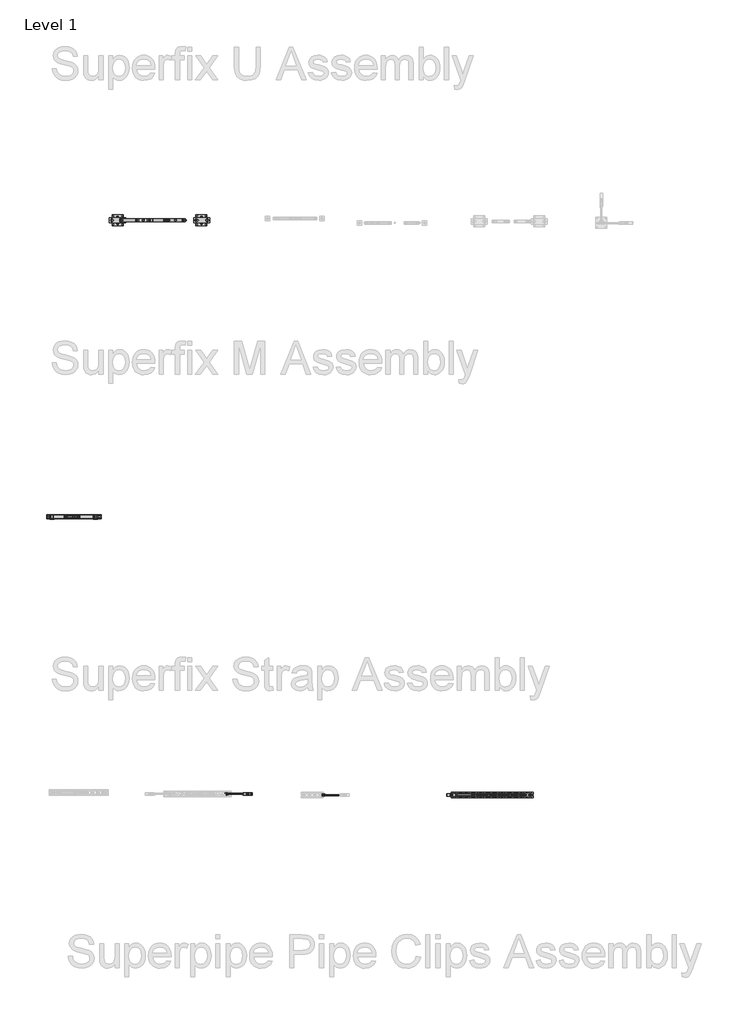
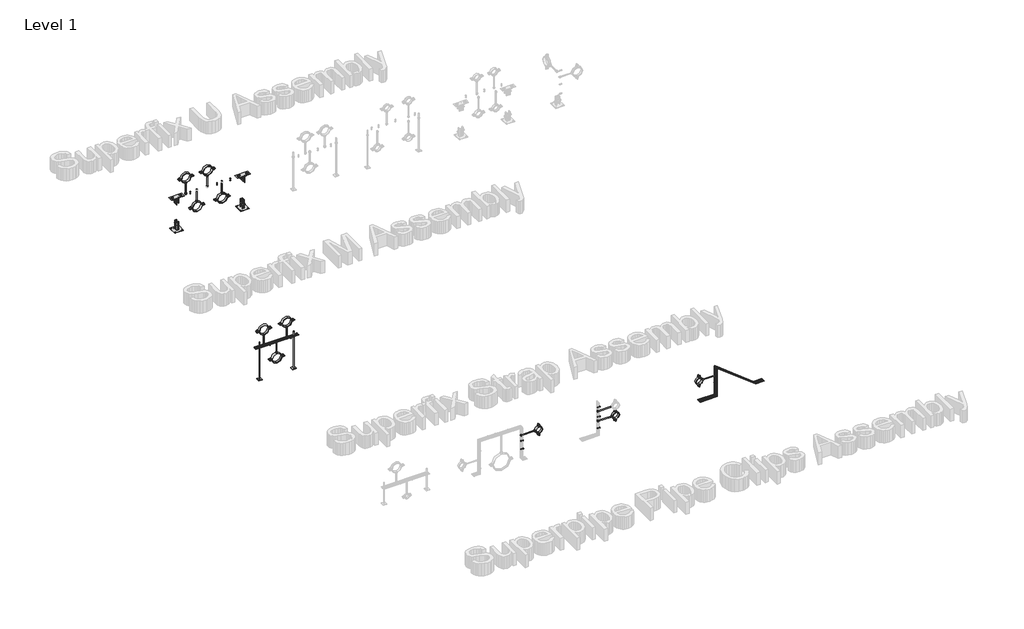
# One storey, part 6 of 32: 142 valves, 2 unitary equipment elements.
"""IFC4 building model written with IfcOpenShell, lengths in millimetres."""

from ifc_helpers import new_model, si_unit, origin, place, context, project, spatial, transform, mapped, element, save
from components import unitary_equipment_e487e5fd, valve_f36d75ac, valve_03d34d46, valve_3ecbcef6, valve_9efe13c8, valve_b67d411c, valve_76fbe92c, valve_fad8a5b8, valve_cdfc1e77, valve_466bc10e, hexagon_nut_galvanized_extra_m10_fcef541f, valve_42e91783, hexagon_nut_galvanized_extra_m8_53389388, superfix_hexagon_screw_galvanized_e39b877e, superfix_hexagon_screw_galvanized_3d7df342, superfix_hexagon_screw_galvanized_39733bb5, superfix_m_extra_beb970f8, superfix_strap_f0c71177, superfix_strap_43a990a7, superfix_strap_2dfa1f6c, superfix_strap_981cfdac, superfix_u_bracket_v_superfix_u_bracket_v_d2fbcba1, superfix_u_bracket_v_superfix_u_bracket_v_062b6a46

model = new_model("IFC4")

# Units and contexts
model_context = context("Model", 3, world=origin())
ifc_project = project(units=[si_unit("LENGTHUNIT", "METRE", prefix="MILLI")], contexts=[model_context])

# Site, building, storey
site = spatial("IfcSite", under=ifc_project)
building = spatial("IfcBuilding", under=site)
storey = spatial("IfcBuildingStorey", under=building, Name="Level 1", Elevation=0.0)

# Unitary equipment
placement = place(None, origin())
unitary_equipment_shape = unitary_equipment_e487e5fd(model_context)
element("IfcUnitaryEquipment", 1, ObjectType="1_INS_MQA-R : MQA-R", at=placement, inside=storey, context=model_context, shape_type="MappedRepresentation", body=[
    mapped(unitary_equipment_shape, transform((-22562.5069151, 23341.6781884, 0.0), x_axis=(0.0, 1.0, 0.0), y_axis=(-1.0, 0.0, 0.0), z_axis=(0.0, 0.0, 1.0))),
])
element("IfcUnitaryEquipment", 2, ObjectType="1_INS_MQA-R : MQA-R", at=placement, inside=storey, context=model_context, shape_type="MappedRepresentation", body=[
    mapped(unitary_equipment_shape, transform((-22162.5069151, 23341.6781884, 0.0), x_axis=(0.0, 1.0, 0.0), y_axis=(-1.0, 0.0, 0.0), z_axis=(0.0, 0.0, 1.0))),
])

# Valves
valve_shape = valve_f36d75ac(model_context)
element("IfcValve", 3, ObjectType="Superfix Threaded Rod (used for clamps) : Threaded Rod - 1000 mm (used for clamps)", at=placement, inside=storey, context=model_context, shape_type="MappedRepresentation", body=[
    mapped(valve_shape, transform((-22562.5069151, 23341.6781884, 0.0), x_axis=(0.0, 0.0, 1.0), y_axis=(1.0, 0.0, 0.0), z_axis=(0.0, 1.0, 0.0))),
])
element("IfcValve", 4, ObjectType="Superfix Threaded Rod (used for clamps) : Threaded Rod - 1000 mm (used for clamps)", at=placement, inside=storey, context=model_context, shape_type="MappedRepresentation", body=[
    mapped(valve_shape, transform((-22162.5069151, 23341.6781884, 0.0), x_axis=(0.0, 0.0, 1.0), y_axis=(1.0, 0.0, 0.0), z_axis=(0.0, 1.0, 0.0))),
])
valve_2_shape = valve_03d34d46(model_context)
element("IfcValve", 5, ObjectType="Superfix DG2 Clamp : Superfix DG2 Clamp", at=placement, inside=storey, context=model_context, shape_type="MappedRepresentation", body=[
    mapped(valve_2_shape, transform((-21854.5211936, 26062.3269188, 402.0), x_axis=(0.0, 1.0, 0.0), y_axis=(-1.0, 0.0, 0.0), z_axis=(0.0, 0.0, 1.0))),
])
element("IfcValve", 6, ObjectType="Superfix DG2 Clamp : Superfix DG2 Clamp", at=placement, inside=storey, context=model_context, shape_type="MappedRepresentation", body=[
    mapped(valve_2_shape, transform((-21600.1711936, 26062.3269188, 402.0), x_axis=(0.0, 1.0, 0.0), y_axis=(-1.0, 0.0, 0.0), z_axis=(0.0, 0.0, 1.0))),
])
element("IfcValve", 7, ObjectType="Superfix DG2 Clamp : Superfix DG2 Clamp", at=placement, inside=storey, context=model_context, shape_type="MappedRepresentation", body=[
    mapped(valve_2_shape, transform((-21429.3211936, 26062.3269188, 402.0), x_axis=(0.0, 1.0, 0.0), y_axis=(1.0, 0.0, 0.0), z_axis=(0.0, 0.0, -1.0))),
])
element("IfcValve", 8, ObjectType="Superfix DG2 Clamp : Superfix DG2 Clamp", at=placement, inside=storey, context=model_context, shape_type="MappedRepresentation", body=[
    mapped(valve_2_shape, transform((-21725.0211936, 26062.3269188, 402.0), x_axis=(0.0, 1.0, 0.0), y_axis=(1.0, 0.0, 0.0), z_axis=(0.0, 0.0, -1.0))),
])
element("IfcValve", 9, ObjectType="Superfix DG2 Clamp : Superfix DG2 Clamp", at=placement, inside=storey, context=model_context, shape_type="MappedRepresentation", body=[
    mapped(valve_2_shape, transform((-22362.8598781, 23341.6781884, 403.0), x_axis=(0.0, -1.0, 0.0), y_axis=(-1.0, 0.0, 0.0), z_axis=(0.0, 0.0, -1.0))),
])
element("IfcValve", 10, ObjectType="Superfix DG2 Clamp : Superfix DG2 Clamp", at=placement, inside=storey, context=model_context, shape_type="MappedRepresentation", body=[
    mapped(valve_2_shape, transform((-22245.1711936, 23341.6781884, 403.0), x_axis=(0.0, -1.0, 0.0), y_axis=(1.0, 0.0, 0.0), z_axis=(0.0, 0.0, 1.0))),
])
element("IfcValve", 11, ObjectType="Superfix DG2 Clamp : Superfix DG2 Clamp", at=placement, inside=storey, context=model_context, shape_type="MappedRepresentation", body=[
    mapped(valve_2_shape, transform((-22513.3158209, 23341.6781884, 403.0), x_axis=(0.0, -1.0, 0.0), y_axis=(1.0, 0.0, 0.0), z_axis=(0.0, 0.0, 1.0))),
])
valve_3_shape = valve_3ecbcef6(model_context)
element("IfcValve", 12, ObjectType="Superfix Threaded Rod (used for clamps) : Threaded Rod - 1000 mm (used for clamps)", at=placement, inside=storey, context=model_context, shape_type="MappedRepresentation", body=[
    mapped(valve_3_shape, transform((-21854.5211936, 26062.3269188, 402.0), x_axis=(0.0, 0.0, 1.0), y_axis=(1.0, 0.0, 0.0), z_axis=(0.0, 1.0, 0.0))),
])
element("IfcValve", 13, ObjectType="Superfix Threaded Rod (used for clamps) : Threaded Rod - 1000 mm (used for clamps)", at=placement, inside=storey, context=model_context, shape_type="MappedRepresentation", body=[
    mapped(valve_3_shape, transform((-21600.1711936, 26062.3269188, 402.0), x_axis=(0.0, 0.0, 1.0), y_axis=(1.0, 0.0, 0.0), z_axis=(0.0, 1.0, 0.0))),
])
element("IfcValve", 14, ObjectType="Superfix Threaded Rod (used for clamps) : Threaded Rod - 1000 mm (used for clamps)", at=placement, inside=storey, context=model_context, shape_type="MappedRepresentation", body=[
    mapped(valve_3_shape, transform((-21429.3211936, 26062.3269188, 402.0), x_axis=(0.0, 0.0, -1.0), y_axis=(-1.0, 0.0, 0.0), z_axis=(0.0, 1.0, 0.0))),
])
element("IfcValve", 15, ObjectType="Superfix Threaded Rod (used for clamps) : Threaded Rod - 1000 mm (used for clamps)", at=placement, inside=storey, context=model_context, shape_type="MappedRepresentation", body=[
    mapped(valve_3_shape, transform((-21725.0211936, 26062.3269188, 402.0), x_axis=(0.0, 0.0, -1.0), y_axis=(-1.0, 0.0, 0.0), z_axis=(0.0, 1.0, 0.0))),
])
element("IfcValve", 16, ObjectType="Superfix Threaded Rod (used for clamps) : Threaded Rod - 1000 mm (used for clamps)", at=placement, inside=storey, context=model_context, shape_type="MappedRepresentation", body=[
    mapped(valve_3_shape, transform((-22362.8598781, 23341.6781884, 403.0), x_axis=(0.0, 0.0, -1.0), y_axis=(1.0, 0.0, 0.0), z_axis=(0.0, -1.0, 0.0))),
])
element("IfcValve", 17, ObjectType="Superfix Threaded Rod (used for clamps) : Threaded Rod - 1000 mm (used for clamps)", at=placement, inside=storey, context=model_context, shape_type="MappedRepresentation", body=[
    mapped(valve_3_shape, transform((-22245.1711936, 23341.6781884, 403.0), x_axis=(0.0, 0.0, 1.0), y_axis=(-1.0, 0.0, 0.0), z_axis=(0.0, -1.0, 0.0))),
])
element("IfcValve", 18, ObjectType="Superfix Threaded Rod (used for clamps) : Threaded Rod - 1000 mm (used for clamps)", at=placement, inside=storey, context=model_context, shape_type="MappedRepresentation", body=[
    mapped(valve_3_shape, transform((-22513.3158209, 23341.6781884, 403.0), x_axis=(0.0, 0.0, 1.0), y_axis=(-1.0, 0.0, 0.0), z_axis=(0.0, -1.0, 0.0))),
])
valve_4_shape = valve_9efe13c8(model_context)
element("IfcValve", 19, ObjectType="Superfix DG2 Clamp : Superfix DG2 Clamp", at=placement, inside=storey, context=model_context, shape_type="MappedRepresentation", body=[
    mapped(valve_4_shape, transform((-20075.2249053, 20789.480189, 167.25), x_axis=(0.0, 1.0, 0.0), y_axis=(0.0, 0.0, 1.0), z_axis=(1.0, 0.0, 0.0))),
])
element("IfcValve", 20, ObjectType="Superfix DG2 Clamp : Superfix DG2 Clamp", at=placement, inside=storey, context=model_context, shape_type="MappedRepresentation", body=[
    mapped(valve_4_shape, transform((-20966.5211936, 20799.485539, 295.5), x_axis=(0.0, 1.0, 0.0), y_axis=(0.0, 0.0, 1.0), z_axis=(1.0, 0.0, 0.0))),
])
element("IfcValve", 21, ObjectType="Superfix DG2 Clamp : Superfix DG2 Clamp", at=placement, inside=storey, context=model_context, shape_type="MappedRepresentation", body=[
    mapped(valve_4_shape, transform((-18700.0503002, 20789.480189, 250.0), x_axis=(0.0, -1.0, 0.0), y_axis=(0.0, 0.0, 1.0), z_axis=(-1.0, 0.0, 0.0))),
])
valve_5_shape = valve_b67d411c(model_context)
element("IfcValve", 22, ObjectType="Superfix Threaded Rod (used for clamps) : Threaded Rod - 1000 mm (used for clamps)", at=placement, inside=storey, context=model_context, shape_type="MappedRepresentation", body=[
    mapped(valve_5_shape, transform((-20075.2249053, 20789.480189, 287.5), x_axis=(1.0, 0.0, 0.0), y_axis=(0.0, 0.0, -1.0), z_axis=(0.0, 1.0, 0.0))),
])
element("IfcValve", 23, ObjectType="Superfix Threaded Rod (used for clamps) : Threaded Rod - 1000 mm (used for clamps)", at=placement, inside=storey, context=model_context, shape_type="MappedRepresentation", body=[
    mapped(valve_5_shape, transform((-20075.2249053, 20789.480189, 167.25), x_axis=(1.0, 0.0, 0.0), y_axis=(0.0, 0.0, -1.0), z_axis=(0.0, 1.0, 0.0))),
])
element("IfcValve", 24, ObjectType="Superfix Threaded Rod (used for clamps) : Threaded Rod - 1000 mm (used for clamps)", at=placement, inside=storey, context=model_context, shape_type="MappedRepresentation", body=[
    mapped(valve_5_shape, transform((-20966.5211936, 20799.485539, 295.5), x_axis=(1.0, 0.0, 0.0), y_axis=(0.0, 0.0, -1.0), z_axis=(0.0, 1.0, 0.0))),
])
element("IfcValve", 25, ObjectType="Superfix Threaded Rod (used for clamps) : Threaded Rod - 1000 mm (used for clamps)", at=placement, inside=storey, context=model_context, shape_type="MappedRepresentation", body=[
    mapped(valve_5_shape, transform((-18700.0503002, 20789.480189, 250.0), x_axis=(-1.0, 0.0, 0.0), y_axis=(0.0, 0.0, -1.0), z_axis=(0.0, -1.0, 0.0))),
])
valve_6_shape = valve_76fbe92c(model_context)
element("IfcValve", 26, ObjectType="Superfix Flat Washer : Superfix Flat Washer M4x10x1", at=placement, inside=storey, context=model_context, shape_type="MappedRepresentation", body=[
    mapped(valve_6_shape, transform((-21487.5507377, 26062.3269188, 404.008864), x_axis=(1.0, 0.0, 0.0), y_axis=(0.0, 1.0, 0.0), z_axis=(0.0, 0.0, 1.0))),
])
element("IfcValve", 27, ObjectType="Superfix Flat Washer : Superfix Flat Washer M4x10x1", at=placement, inside=storey, context=model_context, shape_type="MappedRepresentation", body=[
    mapped(valve_6_shape, transform((-21333.2746296, 26062.3269188, 404.008864), x_axis=(1.0, 0.0, 0.0), y_axis=(0.0, 1.0, 0.0), z_axis=(0.0, 0.0, 1.0))),
])
element("IfcValve", 28, ObjectType="Superfix Flat Washer : Superfix Flat Washer M4x10x1", at=placement, inside=storey, context=model_context, shape_type="MappedRepresentation", body=[
    mapped(valve_6_shape, transform((-21800.1711936, 26062.3269188, 404.008864), x_axis=(1.0, 0.0, 0.0), y_axis=(0.0, 1.0, 0.0), z_axis=(0.0, 0.0, 1.0))),
])
element("IfcValve", 29, ObjectType="Superfix Flat Washer : Superfix Flat Washer M4x10x1", at=placement, inside=storey, context=model_context, shape_type="MappedRepresentation", body=[
    mapped(valve_6_shape, transform((-22195.4583134, 23341.6781884, 405.008864), x_axis=(-1.0, 0.0, 0.0), y_axis=(0.0, -1.0, 0.0), z_axis=(0.0, 0.0, 1.0))),
])
element("IfcValve", 30, ObjectType="Superfix Flat Washer : Superfix Flat Washer M4x10x1", at=placement, inside=storey, context=model_context, shape_type="MappedRepresentation", body=[
    mapped(valve_6_shape, transform((-22439.9674083, 23341.6781884, 405.008864), x_axis=(-1.0, 0.0, 0.0), y_axis=(0.0, -1.0, 0.0), z_axis=(0.0, 0.0, 1.0))),
])
element("IfcValve", 31, ObjectType="Superfix Flat Washer : Superfix Flat Washer M4x10x1", at=placement, inside=storey, context=model_context, shape_type="MappedRepresentation", body=[
    mapped(valve_6_shape, transform((-18698.0414362, 20789.480189, 165.5972539), x_axis=(0.0, 0.0, -1.0), y_axis=(0.0, 1.0, 0.0), z_axis=(1.0, 0.0, 0.0))),
])
element("IfcValve", 32, ObjectType="Superfix Flat Washer : Superfix Flat Washer M4x10x1", at=placement, inside=storey, context=model_context, shape_type="MappedRepresentation", body=[
    mapped(valve_6_shape, transform((-20077.2337693, 20789.480189, 335.500726), x_axis=(0.0, 0.0, -1.0), y_axis=(0.0, -1.0, 0.0), z_axis=(-1.0, 0.0, 0.0))),
])
element("IfcValve", 33, ObjectType="Superfix Flat Washer : Superfix Flat Washer M4x10x1", at=placement, inside=storey, context=model_context, shape_type="MappedRepresentation", body=[
    mapped(valve_6_shape, transform((-20077.2337693, 20793.630189, 75.0), x_axis=(0.0, 0.0, -1.0), y_axis=(0.0, -1.0, 0.0), z_axis=(-1.0, 0.0, 0.0))),
])
element("IfcValve", 34, ObjectType="Superfix Flat Washer : Superfix Flat Washer M4x10x1", at=placement, inside=storey, context=model_context, shape_type="MappedRepresentation", body=[
    mapped(valve_6_shape, transform((-20077.2337693, 20789.480189, 214.3954294), x_axis=(0.0, 0.0, -1.0), y_axis=(0.0, -1.0, 0.0), z_axis=(-1.0, 0.0, 0.0))),
])
element("IfcValve", 35, ObjectType="Superfix Flat Washer : Superfix Flat Washer M4x10x1", at=placement, inside=storey, context=model_context, shape_type="MappedRepresentation", body=[
    mapped(valve_6_shape, transform((-20968.5300576, 20796.485539, 125.5301694), x_axis=(0.0, 0.0, -1.0), y_axis=(0.0, -1.0, 0.0), z_axis=(-1.0, 0.0, 0.0))),
])
element("IfcValve", 36, ObjectType="Superfix Flat Washer : Superfix Flat Washer M4x10x1", at=placement, inside=storey, context=model_context, shape_type="MappedRepresentation", body=[
    mapped(valve_6_shape, transform((-20968.5300576, 20799.485539, 225.5301694), x_axis=(0.0, 0.0, -1.0), y_axis=(0.0, -1.0, 0.0), z_axis=(-1.0, 0.0, 0.0))),
])
valve_7_shape = valve_fad8a5b8(model_context)
element("IfcValve", 37, ObjectType="Superfix Flat Washer : Superfix Flat Washer M8x15x1.5", at=placement, inside=storey, context=model_context, shape_type="MappedRepresentation", body=[
    mapped(valve_7_shape, transform((-21190.6640093, 26032.2269188, 65.0), x_axis=(-1.0, 0.0, 0.0), y_axis=(0.0, 0.0, 1.0), z_axis=(0.0, 1.0, 0.0))),
])
element("IfcValve", 38, ObjectType="Superfix Flat Washer : Superfix Flat Washer M8x15x1.5", at=placement, inside=storey, context=model_context, shape_type="MappedRepresentation", body=[
    mapped(valve_7_shape, transform((-21190.6640093, 26032.2269188, 353.4852002), x_axis=(-1.0, 0.0, 0.0), y_axis=(0.0, 0.0, 1.0), z_axis=(0.0, 1.0, 0.0))),
])
element("IfcValve", 39, ObjectType="Superfix Flat Washer : Superfix Flat Washer M8x15x1.5", at=placement, inside=storey, context=model_context, shape_type="MappedRepresentation", body=[
    mapped(valve_7_shape, transform((-21960.0513166, 26032.2269188, 353.4852002), x_axis=(-1.0, 0.0, 0.0), y_axis=(0.0, 0.0, 1.0), z_axis=(0.0, 1.0, 0.0))),
])
element("IfcValve", 40, ObjectType="Superfix Flat Washer : Superfix Flat Washer M8x15x1.5", at=placement, inside=storey, context=model_context, shape_type="MappedRepresentation", body=[
    mapped(valve_7_shape, transform((-21960.0513166, 26032.2269188, 65.0), x_axis=(-1.0, 0.0, 0.0), y_axis=(0.0, 0.0, 1.0), z_axis=(0.0, 1.0, 0.0))),
])
element("IfcValve", 41, ObjectType="Superfix Flat Washer : Superfix Flat Washer M8x15x1.5", at=placement, inside=storey, context=model_context, shape_type="MappedRepresentation", body=[
    mapped(valve_7_shape, transform((-21976.8606693, 26062.3269188, 375.0), x_axis=(0.0, 1.0, 0.0), y_axis=(0.0, 0.0, 1.0), z_axis=(1.0, 0.0, 0.0))),
])
element("IfcValve", 42, ObjectType="Superfix Flat Washer : Superfix Flat Washer M8x15x1.5", at=placement, inside=storey, context=model_context, shape_type="MappedRepresentation", body=[
    mapped(valve_7_shape, transform((-21175.2606693, 26062.3269188, 375.0), x_axis=(0.0, 1.0, 0.0), y_axis=(0.0, 0.0, 1.0), z_axis=(1.0, 0.0, 0.0))),
])
element("IfcValve", 43, ObjectType="Superfix Flat Washer : Superfix Flat Washer M8x15x1.5", at=placement, inside=storey, context=model_context, shape_type="MappedRepresentation", body=[
    mapped(valve_7_shape, transform((-21976.8606693, 26062.3269188, 25.0), x_axis=(0.0, 1.0, 0.0), y_axis=(0.0, 0.0, 1.0), z_axis=(1.0, 0.0, 0.0))),
])
element("IfcValve", 44, ObjectType="Superfix Flat Washer : Superfix Flat Washer M8x15x1.5", at=placement, inside=storey, context=model_context, shape_type="MappedRepresentation", body=[
    mapped(valve_7_shape, transform((-21175.2606693, 26062.3269188, 25.0), x_axis=(0.0, 1.0, 0.0), y_axis=(0.0, 0.0, 1.0), z_axis=(1.0, 0.0, 0.0))),
])
element("IfcValve", 45, ObjectType="Superfix Flat Washer : Superfix Flat Washer M8x15x1.5", at=placement, inside=storey, context=model_context, shape_type="MappedRepresentation", body=[
    mapped(valve_7_shape, transform((-22005.2606693, 26062.3269188, 398.4), x_axis=(0.0, 1.0, 0.0), y_axis=(-1.0, 0.0, 0.0), z_axis=(0.0, 0.0, 1.0))),
])
element("IfcValve", 46, ObjectType="Superfix Flat Washer : Superfix Flat Washer M8x15x1.5", at=placement, inside=storey, context=model_context, shape_type="MappedRepresentation", body=[
    mapped(valve_7_shape, transform((-21925.2606693, 26062.3269188, 398.4), x_axis=(0.0, 1.0, 0.0), y_axis=(-1.0, 0.0, 0.0), z_axis=(0.0, 0.0, 1.0))),
])
element("IfcValve", 47, ObjectType="Superfix Flat Washer : Superfix Flat Washer M8x15x1.5", at=placement, inside=storey, context=model_context, shape_type="MappedRepresentation", body=[
    mapped(valve_7_shape, transform((-21225.2606693, 26062.3269188, 398.4), x_axis=(0.0, 1.0, 0.0), y_axis=(-1.0, 0.0, 0.0), z_axis=(0.0, 0.0, 1.0))),
])
element("IfcValve", 48, ObjectType="Superfix Flat Washer : Superfix Flat Washer M8x15x1.5", at=placement, inside=storey, context=model_context, shape_type="MappedRepresentation", body=[
    mapped(valve_7_shape, transform((-21145.2606693, 26062.3269188, 398.4), x_axis=(0.0, 1.0, 0.0), y_axis=(-1.0, 0.0, 0.0), z_axis=(0.0, 0.0, 1.0))),
])
element("IfcValve", 49, ObjectType="Superfix Flat Washer : Superfix Flat Washer M8x15x1.5", at=placement, inside=storey, context=model_context, shape_type="MappedRepresentation", body=[
    mapped(valve_7_shape, transform((-22162.5069151, 23341.6781884, 403.0), x_axis=(0.0, 1.0, 0.0), y_axis=(-1.0, 0.0, 0.0), z_axis=(0.0, 0.0, 1.0))),
])
element("IfcValve", 50, ObjectType="Superfix Flat Washer : Superfix Flat Washer M8x15x1.5", at=placement, inside=storey, context=model_context, shape_type="MappedRepresentation", body=[
    mapped(valve_7_shape, transform((-22162.5069151, 23341.6781884, 398.4), x_axis=(0.0, 1.0, 0.0), y_axis=(-1.0, 0.0, 0.0), z_axis=(0.0, 0.0, 1.0))),
])
element("IfcValve", 51, ObjectType="Superfix Flat Washer : Superfix Flat Washer M8x15x1.5", at=placement, inside=storey, context=model_context, shape_type="MappedRepresentation", body=[
    mapped(valve_7_shape, transform((-22562.5069151, 23341.6781884, 400.0), x_axis=(0.0, 1.0, 0.0), y_axis=(1.0, 0.0, 0.0), z_axis=(0.0, 0.0, -1.0))),
])
element("IfcValve", 52, ObjectType="Superfix Flat Washer : Superfix Flat Washer M8x15x1.5", at=placement, inside=storey, context=model_context, shape_type="MappedRepresentation", body=[
    mapped(valve_7_shape, transform((-22562.5069151, 23341.6781884, 403.0), x_axis=(0.0, 1.0, 0.0), y_axis=(-1.0, 0.0, 0.0), z_axis=(0.0, 0.0, 1.0))),
])
valve_8_shape = valve_cdfc1e77(model_context)
element("IfcValve", 53, ObjectType="Superfix Flat Washer : Superfix Flat Washer M10x20x1.5", at=placement, inside=storey, context=model_context, shape_type="MappedRepresentation", body=[
    mapped(valve_8_shape, transform((-21854.5211936, 26062.3269188, 405.0), x_axis=(0.0, 1.0, 0.0), y_axis=(-1.0, 0.0, 0.0), z_axis=(0.0, 0.0, 1.0))),
])
element("IfcValve", 54, ObjectType="Superfix Flat Washer : Superfix Flat Washer M10x20x1.5", at=placement, inside=storey, context=model_context, shape_type="MappedRepresentation", body=[
    mapped(valve_8_shape, transform((-21854.5211936, 26062.3269188, 400.0), x_axis=(0.0, 1.0, 0.0), y_axis=(-1.0, 0.0, 0.0), z_axis=(0.0, 0.0, 1.0))),
])
element("IfcValve", 55, ObjectType="Superfix Flat Washer : Superfix Flat Washer M10x20x1.5", at=placement, inside=storey, context=model_context, shape_type="MappedRepresentation", body=[
    mapped(valve_8_shape, transform((-20072.2249053, 20789.480189, 287.5), x_axis=(0.0, 1.0, 0.0), y_axis=(0.0, 0.0, 1.0), z_axis=(1.0, 0.0, 0.0))),
])
element("IfcValve", 56, ObjectType="Superfix Flat Washer : Superfix Flat Washer M10x20x1.5", at=placement, inside=storey, context=model_context, shape_type="MappedRepresentation", body=[
    mapped(valve_8_shape, transform((-20077.2249053, 20789.480189, 287.5), x_axis=(0.0, 1.0, 0.0), y_axis=(0.0, 0.0, 1.0), z_axis=(1.0, 0.0, 0.0))),
])
element("IfcValve", 57, ObjectType="Superfix Flat Washer : Superfix Flat Washer M10x20x1.5", at=placement, inside=storey, context=model_context, shape_type="MappedRepresentation", body=[
    mapped(valve_8_shape, transform((-20072.2249053, 20789.480189, 167.25), x_axis=(0.0, 1.0, 0.0), y_axis=(0.0, 0.0, 1.0), z_axis=(1.0, 0.0, 0.0))),
])
element("IfcValve", 58, ObjectType="Superfix Flat Washer : Superfix Flat Washer M10x20x1.5", at=placement, inside=storey, context=model_context, shape_type="MappedRepresentation", body=[
    mapped(valve_8_shape, transform((-20077.2249053, 20789.480189, 167.25), x_axis=(0.0, 1.0, 0.0), y_axis=(0.0, 0.0, 1.0), z_axis=(1.0, 0.0, 0.0))),
])
element("IfcValve", 59, ObjectType="Superfix Flat Washer : Superfix Flat Washer M10x20x1.5", at=placement, inside=storey, context=model_context, shape_type="MappedRepresentation", body=[
    mapped(valve_8_shape, transform((-20963.5211936, 20799.485539, 295.5), x_axis=(0.0, 1.0, 0.0), y_axis=(0.0, 0.0, 1.0), z_axis=(1.0, 0.0, 0.0))),
])
element("IfcValve", 60, ObjectType="Superfix Flat Washer : Superfix Flat Washer M10x20x1.5", at=placement, inside=storey, context=model_context, shape_type="MappedRepresentation", body=[
    mapped(valve_8_shape, transform((-20968.5211936, 20799.485539, 295.5), x_axis=(0.0, 1.0, 0.0), y_axis=(0.0, 0.0, 1.0), z_axis=(1.0, 0.0, 0.0))),
])
element("IfcValve", 61, ObjectType="Superfix Flat Washer : Superfix Flat Washer M10x20x1.5", at=placement, inside=storey, context=model_context, shape_type="MappedRepresentation", body=[
    mapped(valve_8_shape, transform((-22362.8598781, 23341.6781884, 400.0), x_axis=(0.0, -1.0, 0.0), y_axis=(-1.0, 0.0, 0.0), z_axis=(0.0, 0.0, -1.0))),
])
element("IfcValve", 62, ObjectType="Superfix Flat Washer : Superfix Flat Washer M10x20x1.5", at=placement, inside=storey, context=model_context, shape_type="MappedRepresentation", body=[
    mapped(valve_8_shape, transform((-22362.8598781, 23341.6781884, 405.0), x_axis=(0.0, -1.0, 0.0), y_axis=(-1.0, 0.0, 0.0), z_axis=(0.0, 0.0, -1.0))),
])
element("IfcValve", 63, ObjectType="Superfix Flat Washer : Superfix Flat Washer M10x20x1.5", at=placement, inside=storey, context=model_context, shape_type="MappedRepresentation", body=[
    mapped(valve_8_shape, transform((-22245.1711936, 23341.6781884, 406.0), x_axis=(0.0, -1.0, 0.0), y_axis=(1.0, 0.0, 0.0), z_axis=(0.0, 0.0, 1.0))),
])
element("IfcValve", 64, ObjectType="Superfix Flat Washer : Superfix Flat Washer M10x20x1.5", at=placement, inside=storey, context=model_context, shape_type="MappedRepresentation", body=[
    mapped(valve_8_shape, transform((-22245.1711936, 23341.6781884, 401.0), x_axis=(0.0, -1.0, 0.0), y_axis=(1.0, 0.0, 0.0), z_axis=(0.0, 0.0, 1.0))),
])
element("IfcValve", 65, ObjectType="Superfix Flat Washer : Superfix Flat Washer M10x20x1.5", at=placement, inside=storey, context=model_context, shape_type="MappedRepresentation", body=[
    mapped(valve_8_shape, transform((-22513.3158209, 23341.6781884, 406.0), x_axis=(0.0, -1.0, 0.0), y_axis=(1.0, 0.0, 0.0), z_axis=(0.0, 0.0, 1.0))),
])
element("IfcValve", 66, ObjectType="Superfix Flat Washer : Superfix Flat Washer M10x20x1.5", at=placement, inside=storey, context=model_context, shape_type="MappedRepresentation", body=[
    mapped(valve_8_shape, transform((-22513.3158209, 23341.6781884, 401.0), x_axis=(0.0, -1.0, 0.0), y_axis=(1.0, 0.0, 0.0), z_axis=(0.0, 0.0, 1.0))),
])
element("IfcValve", 67, ObjectType="Superfix Flat Washer : Superfix Flat Washer M10x20x1.5", at=placement, inside=storey, context=model_context, shape_type="MappedRepresentation", body=[
    mapped(valve_8_shape, transform((-18703.0503002, 20789.480189, 250.0), x_axis=(0.0, -1.0, 0.0), y_axis=(0.0, 0.0, 1.0), z_axis=(-1.0, 0.0, 0.0))),
])
element("IfcValve", 68, ObjectType="Superfix Flat Washer : Superfix Flat Washer M10x20x1.5", at=placement, inside=storey, context=model_context, shape_type="MappedRepresentation", body=[
    mapped(valve_8_shape, transform((-18698.0503002, 20789.480189, 250.0), x_axis=(0.0, -1.0, 0.0), y_axis=(0.0, 0.0, 1.0), z_axis=(-1.0, 0.0, 0.0))),
])
valve_9_shape = valve_466bc10e(model_context)
element("IfcValve", 69, ObjectType="SuperFix U Wall Plate  : SuperFix U Wall Plate ", at=placement, inside=storey, context=model_context, shape_type="MappedRepresentation", body=[
    mapped(valve_9_shape, transform((-21178.2606693, 26062.3269188, -4.0), x_axis=(0.0, 0.0, -1.0), y_axis=(0.0, -1.0, 0.0), z_axis=(-1.0, 0.0, 0.0))),
])
element("IfcValve", 70, ObjectType="SuperFix U Wall Plate  : SuperFix U Wall Plate ", at=placement, inside=storey, context=model_context, shape_type="MappedRepresentation", body=[
    mapped(valve_9_shape, transform((-21972.2606693, 26062.3269188, -4.0), x_axis=(0.0, 0.0, -1.0), y_axis=(0.0, 1.0, 0.0), z_axis=(1.0, 0.0, 0.0))),
])
hexagon_nut_galvanized_extra_m10_shape = hexagon_nut_galvanized_extra_m10_fcef541f(model_context)
element("IfcValve", 71, ObjectType="Superfix Hexagon Nut Galvanized : Hexagon Nut Galvanized M10", at=placement, inside=storey, context=model_context, shape_type="MappedRepresentation", body=[
    mapped(hexagon_nut_galvanized_extra_m10_shape, transform((-21854.5211936, 26062.3269188, 405.0), x_axis=(0.0, 1.0, 0.0), y_axis=(-1.0, 0.0, 0.0), z_axis=(0.0, 0.0, 1.0))),
])
element("IfcValve", 72, ObjectType="Superfix Hexagon Nut Galvanized : Hexagon Nut Galvanized M10", at=placement, inside=storey, context=model_context, shape_type="MappedRepresentation", body=[
    mapped(hexagon_nut_galvanized_extra_m10_shape, transform((-21854.5211936, 26062.3269188, 394.0), x_axis=(0.0, 1.0, 0.0), y_axis=(-1.0, 0.0, 0.0), z_axis=(0.0, 0.0, 1.0))),
])
element("IfcValve", 73, ObjectType="Superfix Hexagon Nut Galvanized : Hexagon Nut Galvanized M10", at=placement, inside=storey, context=model_context, shape_type="MappedRepresentation", body=[
    mapped(hexagon_nut_galvanized_extra_m10_shape, transform((-21600.1711936, 26062.3269188, 405.0), x_axis=(0.0, 1.0, 0.0), y_axis=(-1.0, 0.0, 0.0), z_axis=(0.0, 0.0, 1.0))),
])
element("IfcValve", 74, ObjectType="Superfix Hexagon Nut Galvanized : Hexagon Nut Galvanized M10", at=placement, inside=storey, context=model_context, shape_type="MappedRepresentation", body=[
    mapped(hexagon_nut_galvanized_extra_m10_shape, transform((-20072.2249053, 20789.480189, 287.5), x_axis=(0.0, 1.0, 0.0), y_axis=(0.0, 0.0, 1.0), z_axis=(1.0, 0.0, 0.0))),
])
element("IfcValve", 75, ObjectType="Superfix Hexagon Nut Galvanized : Hexagon Nut Galvanized M10", at=placement, inside=storey, context=model_context, shape_type="MappedRepresentation", body=[
    mapped(hexagon_nut_galvanized_extra_m10_shape, transform((-20083.2249053, 20789.480189, 287.5), x_axis=(0.0, 1.0, 0.0), y_axis=(0.0, 0.0, 1.0), z_axis=(1.0, 0.0, 0.0))),
])
element("IfcValve", 76, ObjectType="Superfix Hexagon Nut Galvanized : Hexagon Nut Galvanized M10", at=placement, inside=storey, context=model_context, shape_type="MappedRepresentation", body=[
    mapped(hexagon_nut_galvanized_extra_m10_shape, transform((-20072.2249053, 20789.480189, 167.25), x_axis=(0.0, 1.0, 0.0), y_axis=(0.0, 0.0, 1.0), z_axis=(1.0, 0.0, 0.0))),
])
element("IfcValve", 77, ObjectType="Superfix Hexagon Nut Galvanized : Hexagon Nut Galvanized M10", at=placement, inside=storey, context=model_context, shape_type="MappedRepresentation", body=[
    mapped(hexagon_nut_galvanized_extra_m10_shape, transform((-20083.2249053, 20789.480189, 167.25), x_axis=(0.0, 1.0, 0.0), y_axis=(0.0, 0.0, 1.0), z_axis=(1.0, 0.0, 0.0))),
])
element("IfcValve", 78, ObjectType="Superfix Hexagon Nut Galvanized : Hexagon Nut Galvanized M10", at=placement, inside=storey, context=model_context, shape_type="MappedRepresentation", body=[
    mapped(hexagon_nut_galvanized_extra_m10_shape, transform((-20963.5211936, 20799.485539, 295.5), x_axis=(0.0, 1.0, 0.0), y_axis=(0.0, 0.0, 1.0), z_axis=(1.0, 0.0, 0.0))),
])
element("IfcValve", 79, ObjectType="Superfix Hexagon Nut Galvanized : Hexagon Nut Galvanized M10", at=placement, inside=storey, context=model_context, shape_type="MappedRepresentation", body=[
    mapped(hexagon_nut_galvanized_extra_m10_shape, transform((-20974.5211936, 20799.485539, 295.5), x_axis=(0.0, 1.0, 0.0), y_axis=(0.0, 0.0, 1.0), z_axis=(1.0, 0.0, 0.0))),
])
element("IfcValve", 80, ObjectType="Superfix Hexagon Nut Galvanized : Hexagon Nut Galvanized M10", at=placement, inside=storey, context=model_context, shape_type="MappedRepresentation", body=[
    mapped(hexagon_nut_galvanized_extra_m10_shape, transform((-22362.8598781, 23341.6781884, 400.0), x_axis=(0.0, -1.0, 0.0), y_axis=(-1.0, 0.0, 0.0), z_axis=(0.0, 0.0, -1.0))),
])
element("IfcValve", 81, ObjectType="Superfix Hexagon Nut Galvanized : Hexagon Nut Galvanized M10", at=placement, inside=storey, context=model_context, shape_type="MappedRepresentation", body=[
    mapped(hexagon_nut_galvanized_extra_m10_shape, transform((-22362.8598781, 23341.6781884, 411.0), x_axis=(0.0, -1.0, 0.0), y_axis=(-1.0, 0.0, 0.0), z_axis=(0.0, 0.0, -1.0))),
])
element("IfcValve", 82, ObjectType="Superfix Hexagon Nut Galvanized : Hexagon Nut Galvanized M10", at=placement, inside=storey, context=model_context, shape_type="MappedRepresentation", body=[
    mapped(hexagon_nut_galvanized_extra_m10_shape, transform((-22245.1711936, 23341.6781884, 406.0), x_axis=(0.0, -1.0, 0.0), y_axis=(1.0, 0.0, 0.0), z_axis=(0.0, 0.0, 1.0))),
])
element("IfcValve", 83, ObjectType="Superfix Hexagon Nut Galvanized : Hexagon Nut Galvanized M10", at=placement, inside=storey, context=model_context, shape_type="MappedRepresentation", body=[
    mapped(hexagon_nut_galvanized_extra_m10_shape, transform((-22245.1711936, 23341.6781884, 395.0), x_axis=(0.0, -1.0, 0.0), y_axis=(1.0, 0.0, 0.0), z_axis=(0.0, 0.0, 1.0))),
])
element("IfcValve", 84, ObjectType="Superfix Hexagon Nut Galvanized : Hexagon Nut Galvanized M10", at=placement, inside=storey, context=model_context, shape_type="MappedRepresentation", body=[
    mapped(hexagon_nut_galvanized_extra_m10_shape, transform((-22513.3158209, 23341.6781884, 406.0), x_axis=(0.0, -1.0, 0.0), y_axis=(1.0, 0.0, 0.0), z_axis=(0.0, 0.0, 1.0))),
])
element("IfcValve", 85, ObjectType="Superfix Hexagon Nut Galvanized : Hexagon Nut Galvanized M10", at=placement, inside=storey, context=model_context, shape_type="MappedRepresentation", body=[
    mapped(hexagon_nut_galvanized_extra_m10_shape, transform((-22513.3158209, 23341.6781884, 395.0), x_axis=(0.0, -1.0, 0.0), y_axis=(1.0, 0.0, 0.0), z_axis=(0.0, 0.0, 1.0))),
])
element("IfcValve", 86, ObjectType="Superfix Hexagon Nut Galvanized : Hexagon Nut Galvanized M10", at=placement, inside=storey, context=model_context, shape_type="MappedRepresentation", body=[
    mapped(hexagon_nut_galvanized_extra_m10_shape, transform((-18703.0503002, 20789.480189, 250.0), x_axis=(0.0, -1.0, 0.0), y_axis=(0.0, 0.0, 1.0), z_axis=(-1.0, 0.0, 0.0))),
])
element("IfcValve", 87, ObjectType="Superfix Hexagon Nut Galvanized : Hexagon Nut Galvanized M10", at=placement, inside=storey, context=model_context, shape_type="MappedRepresentation", body=[
    mapped(hexagon_nut_galvanized_extra_m10_shape, transform((-18692.0503002, 20789.480189, 250.0), x_axis=(0.0, -1.0, 0.0), y_axis=(0.0, 0.0, 1.0), z_axis=(-1.0, 0.0, 0.0))),
])
valve_10_shape = valve_42e91783(model_context)
element("IfcValve", 88, ObjectType="Superfix Hexagon Nut Galvanized : Hexagon Nut Galvanized M4", at=placement, inside=storey, context=model_context, shape_type="MappedRepresentation", body=[
    mapped(valve_10_shape, transform((-21487.5507377, 26062.3269188, 405.008864), x_axis=(1.0, 0.0, 0.0), y_axis=(0.0, 1.0, 0.0), z_axis=(0.0, 0.0, 1.0))),
])
element("IfcValve", 89, ObjectType="Superfix Hexagon Nut Galvanized : Hexagon Nut Galvanized M4", at=placement, inside=storey, context=model_context, shape_type="MappedRepresentation", body=[
    mapped(valve_10_shape, transform((-21333.2746296, 26062.3269188, 405.008864), x_axis=(1.0, 0.0, 0.0), y_axis=(0.0, 1.0, 0.0), z_axis=(0.0, 0.0, 1.0))),
])
element("IfcValve", 90, ObjectType="Superfix Hexagon Nut Galvanized : Hexagon Nut Galvanized M4", at=placement, inside=storey, context=model_context, shape_type="MappedRepresentation", body=[
    mapped(valve_10_shape, transform((-21800.1711936, 26062.3269188, 405.008864), x_axis=(1.0, 0.0, 0.0), y_axis=(0.0, 1.0, 0.0), z_axis=(0.0, 0.0, 1.0))),
])
element("IfcValve", 91, ObjectType="Superfix Hexagon Nut Galvanized : Hexagon Nut Galvanized M4", at=placement, inside=storey, context=model_context, shape_type="MappedRepresentation", body=[
    mapped(valve_10_shape, transform((-22195.4583134, 23341.6781884, 406.008864), x_axis=(-1.0, 0.0, 0.0), y_axis=(0.0, -1.0, 0.0), z_axis=(0.0, 0.0, 1.0))),
])
element("IfcValve", 92, ObjectType="Superfix Hexagon Nut Galvanized : Hexagon Nut Galvanized M4", at=placement, inside=storey, context=model_context, shape_type="MappedRepresentation", body=[
    mapped(valve_10_shape, transform((-22439.9674083, 23341.6781884, 406.008864), x_axis=(-1.0, 0.0, 0.0), y_axis=(0.0, -1.0, 0.0), z_axis=(0.0, 0.0, 1.0))),
])
element("IfcValve", 93, ObjectType="Superfix Hexagon Nut Galvanized : Hexagon Nut Galvanized M4", at=placement, inside=storey, context=model_context, shape_type="MappedRepresentation", body=[
    mapped(valve_10_shape, transform((-18697.0414362, 20789.480189, 165.5972539), x_axis=(0.0, 0.0, -1.0), y_axis=(0.0, 1.0, 0.0), z_axis=(1.0, 0.0, 0.0))),
])
element("IfcValve", 94, ObjectType="Superfix Hexagon Nut Galvanized : Hexagon Nut Galvanized M4", at=placement, inside=storey, context=model_context, shape_type="MappedRepresentation", body=[
    mapped(valve_10_shape, transform((-20078.2337693, 20789.480189, 335.500726), x_axis=(0.0, 0.0, -1.0), y_axis=(0.0, -1.0, 0.0), z_axis=(-1.0, 0.0, 0.0))),
])
element("IfcValve", 95, ObjectType="Superfix Hexagon Nut Galvanized : Hexagon Nut Galvanized M4", at=placement, inside=storey, context=model_context, shape_type="MappedRepresentation", body=[
    mapped(valve_10_shape, transform((-20078.2337693, 20793.630189, 75.0), x_axis=(0.0, 0.0, -1.0), y_axis=(0.0, -1.0, 0.0), z_axis=(-1.0, 0.0, 0.0))),
])
element("IfcValve", 96, ObjectType="Superfix Hexagon Nut Galvanized : Hexagon Nut Galvanized M4", at=placement, inside=storey, context=model_context, shape_type="MappedRepresentation", body=[
    mapped(valve_10_shape, transform((-20078.2337693, 20789.480189, 214.3954294), x_axis=(0.0, 0.0, -1.0), y_axis=(0.0, -1.0, 0.0), z_axis=(-1.0, 0.0, 0.0))),
])
element("IfcValve", 97, ObjectType="Superfix Hexagon Nut Galvanized : Hexagon Nut Galvanized M4", at=placement, inside=storey, context=model_context, shape_type="MappedRepresentation", body=[
    mapped(valve_10_shape, transform((-20969.5300576, 20796.485539, 125.5301694), x_axis=(0.0, 0.0, -1.0), y_axis=(0.0, -1.0, 0.0), z_axis=(-1.0, 0.0, 0.0))),
])
element("IfcValve", 98, ObjectType="Superfix Hexagon Nut Galvanized : Hexagon Nut Galvanized M4", at=placement, inside=storey, context=model_context, shape_type="MappedRepresentation", body=[
    mapped(valve_10_shape, transform((-20969.5300576, 20799.485539, 225.5301694), x_axis=(0.0, 0.0, -1.0), y_axis=(0.0, -1.0, 0.0), z_axis=(-1.0, 0.0, 0.0))),
])
hexagon_nut_galvanized_extra_m8_shape = hexagon_nut_galvanized_extra_m8_53389388(model_context)
element("IfcValve", 99, ObjectType="Superfix Hexagon Nut Galvanized : Hexagon Nut Galvanized M8", at=placement, inside=storey, context=model_context, shape_type="MappedRepresentation", body=[
    mapped(hexagon_nut_galvanized_extra_m8_shape, transform((-22005.2606693, 26062.3269188, 400.0), x_axis=(0.0, 1.0, 0.0), y_axis=(1.0, 0.0, 0.0), z_axis=(0.0, 0.0, -1.0))),
])
element("IfcValve", 100, ObjectType="Superfix Hexagon Nut Galvanized : Hexagon Nut Galvanized M8", at=placement, inside=storey, context=model_context, shape_type="MappedRepresentation", body=[
    mapped(hexagon_nut_galvanized_extra_m8_shape, transform((-21925.2606693, 26062.3269188, 400.0), x_axis=(0.0, 1.0, 0.0), y_axis=(1.0, 0.0, 0.0), z_axis=(0.0, 0.0, -1.0))),
])
element("IfcValve", 101, ObjectType="Superfix Hexagon Nut Galvanized : Hexagon Nut Galvanized M8", at=placement, inside=storey, context=model_context, shape_type="MappedRepresentation", body=[
    mapped(hexagon_nut_galvanized_extra_m8_shape, transform((-21225.2606693, 26062.3269188, 400.0), x_axis=(0.0, 1.0, 0.0), y_axis=(1.0, 0.0, 0.0), z_axis=(0.0, 0.0, -1.0))),
])
element("IfcValve", 102, ObjectType="Superfix Hexagon Nut Galvanized : Hexagon Nut Galvanized M8", at=placement, inside=storey, context=model_context, shape_type="MappedRepresentation", body=[
    mapped(hexagon_nut_galvanized_extra_m8_shape, transform((-21145.2606693, 26062.3269188, 400.0), x_axis=(0.0, 1.0, 0.0), y_axis=(1.0, 0.0, 0.0), z_axis=(0.0, 0.0, -1.0))),
])
element("IfcValve", 103, ObjectType="Superfix Hexagon Nut Galvanized : Hexagon Nut Galvanized M8", at=placement, inside=storey, context=model_context, shape_type="MappedRepresentation", body=[
    mapped(hexagon_nut_galvanized_extra_m8_shape, transform((-21975.2606693, 26062.3269188, 375.0), x_axis=(0.0, 0.0, 1.0), y_axis=(0.0, 1.0, 0.0), z_axis=(-1.0, 0.0, 0.0))),
])
element("IfcValve", 104, ObjectType="Superfix Hexagon Nut Galvanized : Hexagon Nut Galvanized M8", at=placement, inside=storey, context=model_context, shape_type="MappedRepresentation", body=[
    mapped(hexagon_nut_galvanized_extra_m8_shape, transform((-21975.2606693, 26062.3269188, 25.0), x_axis=(0.0, 0.0, 1.0), y_axis=(0.0, 1.0, 0.0), z_axis=(-1.0, 0.0, 0.0))),
])
element("IfcValve", 105, ObjectType="Superfix Hexagon Nut Galvanized : Hexagon Nut Galvanized M8", at=placement, inside=storey, context=model_context, shape_type="MappedRepresentation", body=[
    mapped(hexagon_nut_galvanized_extra_m8_shape, transform((-21175.2606693, 26062.3269188, 375.0), x_axis=(0.0, -1.0, 0.0), y_axis=(0.0, 0.0, -1.0), z_axis=(1.0, 0.0, 0.0))),
])
element("IfcValve", 106, ObjectType="Superfix Hexagon Nut Galvanized : Hexagon Nut Galvanized M8", at=placement, inside=storey, context=model_context, shape_type="MappedRepresentation", body=[
    mapped(hexagon_nut_galvanized_extra_m8_shape, transform((-21175.2606693, 26062.3269188, 25.0), x_axis=(0.0, -1.0, 0.0), y_axis=(0.0, 0.0, -1.0), z_axis=(1.0, 0.0, 0.0))),
])
element("IfcValve", 107, ObjectType="Superfix Hexagon Nut Galvanized : Hexagon Nut Galvanized M8", at=placement, inside=storey, context=model_context, shape_type="MappedRepresentation", body=[
    mapped(hexagon_nut_galvanized_extra_m8_shape, transform((-21190.6640093, 26027.3269188, 65.0), x_axis=(-1.0, 0.0, 0.0), y_axis=(0.0, 0.0, 1.0), z_axis=(0.0, 1.0, 0.0))),
])
element("IfcValve", 108, ObjectType="Superfix Hexagon Nut Galvanized : Hexagon Nut Galvanized M8", at=placement, inside=storey, context=model_context, shape_type="MappedRepresentation", body=[
    mapped(hexagon_nut_galvanized_extra_m8_shape, transform((-21960.0513166, 26033.8269188, 65.0), x_axis=(0.0, 0.0, -1.0), y_axis=(1.0, 0.0, 0.0), z_axis=(0.0, -1.0, 0.0))),
])
element("IfcValve", 109, ObjectType="Superfix Hexagon Nut Galvanized : Hexagon Nut Galvanized M8", at=placement, inside=storey, context=model_context, shape_type="MappedRepresentation", body=[
    mapped(hexagon_nut_galvanized_extra_m8_shape, transform((-21960.0513166, 26033.8269188, 353.4852002), x_axis=(0.0, 0.0, -1.0), y_axis=(1.0, 0.0, 0.0), z_axis=(0.0, -1.0, 0.0))),
])
element("IfcValve", 110, ObjectType="Superfix Hexagon Nut Galvanized : Hexagon Nut Galvanized M8", at=placement, inside=storey, context=model_context, shape_type="MappedRepresentation", body=[
    mapped(hexagon_nut_galvanized_extra_m8_shape, transform((-22162.5069151, 23341.6781884, 400.0), x_axis=(0.0, 1.0, 0.0), y_axis=(1.0, 0.0, 0.0), z_axis=(0.0, 0.0, -1.0))),
])
element("IfcValve", 111, ObjectType="Superfix Hexagon Nut Galvanized : Hexagon Nut Galvanized M8", at=placement, inside=storey, context=model_context, shape_type="MappedRepresentation", body=[
    mapped(hexagon_nut_galvanized_extra_m8_shape, transform((-22162.5069151, 23341.6781884, 403.0), x_axis=(0.0, 1.0, 0.0), y_axis=(-1.0, 0.0, 0.0), z_axis=(0.0, 0.0, 1.0))),
])
element("IfcValve", 112, ObjectType="Superfix Hexagon Nut Galvanized : Hexagon Nut Galvanized M8", at=placement, inside=storey, context=model_context, shape_type="MappedRepresentation", body=[
    mapped(hexagon_nut_galvanized_extra_m8_shape, transform((-22562.5069151, 23341.6781884, 403.0), x_axis=(0.0, 1.0, 0.0), y_axis=(-1.0, 0.0, 0.0), z_axis=(0.0, 0.0, 1.0))),
])
element("IfcValve", 113, ObjectType="Superfix Hexagon Nut Galvanized : Hexagon Nut Galvanized M8", at=placement, inside=storey, context=model_context, shape_type="MappedRepresentation", body=[
    mapped(hexagon_nut_galvanized_extra_m8_shape, transform((-22562.5069151, 23341.6781884, 393.5), x_axis=(0.0, 1.0, 0.0), y_axis=(-1.0, 0.0, 0.0), z_axis=(0.0, 0.0, 1.0))),
])
superfix_hexagon_screw_galvanized_shape = superfix_hexagon_screw_galvanized_e39b877e(model_context)
element("IfcValve", 114, ObjectType="SuperFix Hexagon Screw Galvanized : Hexagon Screw Galvanized M8 × 25", at=placement, inside=storey, context=model_context, shape_type="MappedRepresentation", body=[
    mapped(superfix_hexagon_screw_galvanized_shape, transform((-21225.2606693, 26062.3269188, 403.0), x_axis=(-1.0, 0.0, 0.0), y_axis=(0.0, -1.0, 0.0), z_axis=(0.0, 0.0, 1.0))),
])
element("IfcValve", 115, ObjectType="SuperFix Hexagon Screw Galvanized : Hexagon Screw Galvanized M8 × 25", at=placement, inside=storey, context=model_context, shape_type="MappedRepresentation", body=[
    mapped(superfix_hexagon_screw_galvanized_shape, transform((-21145.2606693, 26062.3269188, 403.0), x_axis=(-1.0, 0.0, 0.0), y_axis=(0.0, -1.0, 0.0), z_axis=(0.0, 0.0, 1.0))),
])
element("IfcValve", 116, ObjectType="SuperFix Hexagon Screw Galvanized : Hexagon Screw Galvanized M8 × 25", at=placement, inside=storey, context=model_context, shape_type="MappedRepresentation", body=[
    mapped(superfix_hexagon_screw_galvanized_shape, transform((-21925.2606693, 26062.3269188, 403.0), x_axis=(0.0, 1.0, 0.0), y_axis=(-1.0, 0.0, 0.0), z_axis=(0.0, 0.0, 1.0))),
])
element("IfcValve", 117, ObjectType="SuperFix Hexagon Screw Galvanized : Hexagon Screw Galvanized M8 × 25", at=placement, inside=storey, context=model_context, shape_type="MappedRepresentation", body=[
    mapped(superfix_hexagon_screw_galvanized_shape, transform((-22005.2606693, 26062.3269188, 403.0), x_axis=(0.0, 1.0, 0.0), y_axis=(-1.0, 0.0, 0.0), z_axis=(0.0, 0.0, 1.0))),
])
element("IfcValve", 118, ObjectType="SuperFix Hexagon Screw Galvanized : Hexagon Screw Galvanized M8 × 25", at=placement, inside=storey, context=model_context, shape_type="MappedRepresentation", body=[
    mapped(superfix_hexagon_screw_galvanized_shape, transform((-21968.2606693, 26062.3269188, 25.0), x_axis=(0.0, -1.0, 0.0), y_axis=(0.0, 0.0, -1.0), z_axis=(1.0, 0.0, 0.0))),
])
element("IfcValve", 119, ObjectType="SuperFix Hexagon Screw Galvanized : Hexagon Screw Galvanized M8 × 25", at=placement, inside=storey, context=model_context, shape_type="MappedRepresentation", body=[
    mapped(superfix_hexagon_screw_galvanized_shape, transform((-21972.2606693, 26062.3269188, 375.0), x_axis=(0.0, -1.0, 0.0), y_axis=(0.0, 0.0, -1.0), z_axis=(1.0, 0.0, 0.0))),
])
element("IfcValve", 120, ObjectType="SuperFix Hexagon Screw Galvanized : Hexagon Screw Galvanized M8 × 25", at=placement, inside=storey, context=model_context, shape_type="MappedRepresentation", body=[
    mapped(superfix_hexagon_screw_galvanized_shape, transform((-21178.2606693, 26062.3269188, 375.0), x_axis=(0.0, -1.0, 0.0), y_axis=(0.0, 0.0, 1.0), z_axis=(-1.0, 0.0, 0.0))),
])
element("IfcValve", 121, ObjectType="SuperFix Hexagon Screw Galvanized : Hexagon Screw Galvanized M8 × 25", at=placement, inside=storey, context=model_context, shape_type="MappedRepresentation", body=[
    mapped(superfix_hexagon_screw_galvanized_shape, transform((-21182.2606693, 26062.3269188, 25.0), x_axis=(0.0, -1.0, 0.0), y_axis=(0.0, 0.0, 1.0), z_axis=(-1.0, 0.0, 0.0))),
])
superfix_hexagon_screw_galvanized_2_shape = superfix_hexagon_screw_galvanized_3d7df342(model_context)
element("IfcValve", 122, ObjectType="SuperFix Hexagon Screw Galvanized : Hexagon Screw Galvanized M8 × 70", at=placement, inside=storey, context=model_context, shape_type="MappedRepresentation", body=[
    mapped(superfix_hexagon_screw_galvanized_2_shape, transform((-21190.6640093, 26090.8269188, 65.0), x_axis=(-1.0, 0.0, 0.0), y_axis=(0.0, 0.0, 1.0), z_axis=(0.0, 1.0, 0.0))),
])
element("IfcValve", 123, ObjectType="SuperFix Hexagon Screw Galvanized : Hexagon Screw Galvanized M8 × 70", at=placement, inside=storey, context=model_context, shape_type="MappedRepresentation", body=[
    mapped(superfix_hexagon_screw_galvanized_2_shape, transform((-21960.0513166, 26090.8269188, 65.0), x_axis=(-1.0, 0.0, 0.0), y_axis=(0.0, 0.0, 1.0), z_axis=(0.0, 1.0, 0.0))),
])
element("IfcValve", 124, ObjectType="SuperFix Hexagon Screw Galvanized : Hexagon Screw Galvanized M8 × 70", at=placement, inside=storey, context=model_context, shape_type="MappedRepresentation", body=[
    mapped(superfix_hexagon_screw_galvanized_2_shape, transform((-21190.6640093, 26090.8269188, 353.4852002), x_axis=(-1.0, 0.0, 0.0), y_axis=(0.0, 0.0, 1.0), z_axis=(0.0, 1.0, 0.0))),
])
element("IfcValve", 125, ObjectType="SuperFix Hexagon Screw Galvanized : Hexagon Screw Galvanized M8 × 70", at=placement, inside=storey, context=model_context, shape_type="MappedRepresentation", body=[
    mapped(superfix_hexagon_screw_galvanized_2_shape, transform((-21960.0513166, 26090.8269188, 353.4852002), x_axis=(-1.0, 0.0, 0.0), y_axis=(0.0, 0.0, 1.0), z_axis=(0.0, 1.0, 0.0))),
])
element("IfcValve", 126, ObjectType="SuperFix Hexagon Screw Galvanized : Hexagon Screw Galvanized M8 × 70", at=placement, inside=storey, context=model_context, shape_type="MappedRepresentation", body=[
    mapped(superfix_hexagon_screw_galvanized_2_shape, transform((-21190.6640093, 26090.8269188, 353.4852002), x_axis=(0.0, 0.0, -1.0), y_axis=(-1.0, 0.0, 0.0), z_axis=(0.0, 1.0, 0.0))),
])
superfix_hexagon_screw_galvanized_3_shape = superfix_hexagon_screw_galvanized_39733bb5(model_context)
element("IfcValve", 127, ObjectType="SuperFix Hexagon Screw Galvanized : Hexagon Screw Galvanized M4 × 25", at=placement, inside=storey, context=model_context, shape_type="MappedRepresentation", body=[
    mapped(superfix_hexagon_screw_galvanized_3_shape, transform((-21487.5507377, 26062.3269188, 385.0), x_axis=(0.0, 1.0, 0.0), y_axis=(1.0, 0.0, 0.0), z_axis=(0.0, 0.0, -1.0))),
])
element("IfcValve", 128, ObjectType="SuperFix Hexagon Screw Galvanized : Hexagon Screw Galvanized M4 × 25", at=placement, inside=storey, context=model_context, shape_type="MappedRepresentation", body=[
    mapped(superfix_hexagon_screw_galvanized_3_shape, transform((-21333.2746296, 26062.3269188, 385.0), x_axis=(0.0, 1.0, 0.0), y_axis=(1.0, 0.0, 0.0), z_axis=(0.0, 0.0, -1.0))),
])
element("IfcValve", 129, ObjectType="SuperFix Hexagon Screw Galvanized : Hexagon Screw Galvanized M4 × 25", at=placement, inside=storey, context=model_context, shape_type="MappedRepresentation", body=[
    mapped(superfix_hexagon_screw_galvanized_3_shape, transform((-21800.1711936, 26062.3269188, 385.0), x_axis=(0.0, 1.0, 0.0), y_axis=(1.0, 0.0, 0.0), z_axis=(0.0, 0.0, -1.0))),
])
element("IfcValve", 130, ObjectType="SuperFix Hexagon Screw Galvanized : Hexagon Screw Galvanized M4 × 25", at=placement, inside=storey, context=model_context, shape_type="MappedRepresentation", body=[
    mapped(superfix_hexagon_screw_galvanized_3_shape, transform((-22195.4583134, 23341.6781884, 386.0), x_axis=(0.0, -1.0, 0.0), y_axis=(-1.0, 0.0, 0.0), z_axis=(0.0, 0.0, -1.0))),
])
element("IfcValve", 131, ObjectType="SuperFix Hexagon Screw Galvanized : Hexagon Screw Galvanized M4 × 25", at=placement, inside=storey, context=model_context, shape_type="MappedRepresentation", body=[
    mapped(superfix_hexagon_screw_galvanized_3_shape, transform((-22439.9674083, 23341.6781884, 386.0), x_axis=(0.0, -1.0, 0.0), y_axis=(-1.0, 0.0, 0.0), z_axis=(0.0, 0.0, -1.0))),
])
element("IfcValve", 132, ObjectType="SuperFix Hexagon Screw Galvanized : Hexagon Screw Galvanized M4 × 25", at=placement, inside=storey, context=model_context, shape_type="MappedRepresentation", body=[
    mapped(superfix_hexagon_screw_galvanized_3_shape, transform((-18717.0503002, 20789.480189, 165.5972539), x_axis=(0.0, 1.0, 0.0), y_axis=(0.0, 0.0, -1.0), z_axis=(-1.0, 0.0, 0.0))),
])
element("IfcValve", 133, ObjectType="SuperFix Hexagon Screw Galvanized : Hexagon Screw Galvanized M4 × 25", at=placement, inside=storey, context=model_context, shape_type="MappedRepresentation", body=[
    mapped(superfix_hexagon_screw_galvanized_3_shape, transform((-20058.2249053, 20789.480189, 335.500726), x_axis=(0.0, -1.0, 0.0), y_axis=(0.0, 0.0, -1.0), z_axis=(1.0, 0.0, 0.0))),
])
element("IfcValve", 134, ObjectType="SuperFix Hexagon Screw Galvanized : Hexagon Screw Galvanized M4 × 25", at=placement, inside=storey, context=model_context, shape_type="MappedRepresentation", body=[
    mapped(superfix_hexagon_screw_galvanized_3_shape, transform((-20058.2249053, 20793.630189, 75.0), x_axis=(0.0, -1.0, 0.0), y_axis=(0.0, 0.0, -1.0), z_axis=(1.0, 0.0, 0.0))),
])
element("IfcValve", 135, ObjectType="SuperFix Hexagon Screw Galvanized : Hexagon Screw Galvanized M4 × 25", at=placement, inside=storey, context=model_context, shape_type="MappedRepresentation", body=[
    mapped(superfix_hexagon_screw_galvanized_3_shape, transform((-20058.2249053, 20789.480189, 214.3954294), x_axis=(0.0, -1.0, 0.0), y_axis=(0.0, 0.0, -1.0), z_axis=(1.0, 0.0, 0.0))),
])
element("IfcValve", 136, ObjectType="SuperFix Hexagon Screw Galvanized : Hexagon Screw Galvanized M4 × 25", at=placement, inside=storey, context=model_context, shape_type="MappedRepresentation", body=[
    mapped(superfix_hexagon_screw_galvanized_3_shape, transform((-20949.5211936, 20796.485539, 125.5301694), x_axis=(0.0, -1.0, 0.0), y_axis=(0.0, 0.0, -1.0), z_axis=(1.0, 0.0, 0.0))),
])
element("IfcValve", 137, ObjectType="SuperFix Hexagon Screw Galvanized : Hexagon Screw Galvanized M4 × 25", at=placement, inside=storey, context=model_context, shape_type="MappedRepresentation", body=[
    mapped(superfix_hexagon_screw_galvanized_3_shape, transform((-20949.5211936, 20799.485539, 225.5301694), x_axis=(0.0, -1.0, 0.0), y_axis=(0.0, 0.0, -1.0), z_axis=(1.0, 0.0, 0.0))),
])
superfix_m_extra_shape = superfix_m_extra_beb970f8(model_context)
element("IfcValve", 138, ObjectType="Superfix M : SuperFix M", at=placement, inside=storey, context=model_context, shape_type="MappedRepresentation", body=[
    mapped(superfix_m_extra_shape, transform((-22362.5069151, 23341.6781884, 400.0), x_axis=(1.0, 0.0, 0.0), y_axis=(0.0, 1.0, 0.0), z_axis=(0.0, 0.0, 1.0))),
])
superfix_strap_shape = superfix_strap_f0c71177(model_context)
element("IfcValve", 139, ObjectType="Superfix Strap : SuperFix Strap", at=placement, inside=storey, context=model_context, shape_type="MappedRepresentation", body=[
    mapped(superfix_strap_shape, transform((-18200.0503002, 20789.480189, 0.0), x_axis=(-1.0, 0.0, 0.0), y_axis=(0.0, -1.0, 0.0), z_axis=(0.0, 0.0, 1.0))),
])
superfix_strap_2_shape = superfix_strap_43a990a7(model_context)
element("IfcValve", 140, ObjectType="Superfix Strap : SuperFix Strap", at=placement, inside=storey, context=model_context, shape_type="MappedRepresentation", body=[
    mapped(superfix_strap_2_shape, transform((-18702.0503002, 20789.480189, 175.0), x_axis=(0.0, 0.0, 1.0), y_axis=(0.0, -1.0, 0.0), z_axis=(1.0, 0.0, 0.0))),
])
superfix_strap_3_shape = superfix_strap_2dfa1f6c(model_context)
element("IfcValve", 141, ObjectType="Superfix Strap : SuperFix Strap", at=placement, inside=storey, context=model_context, shape_type="MappedRepresentation", body=[
    mapped(superfix_strap_3_shape, transform((-18475.0503002, 20789.480189, 175.0), x_axis=(-0.7893522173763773, 0.0, 0.6139406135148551), y_axis=(0.0, -1.0000000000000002, 0.0), z_axis=(0.6139406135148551, 0.0, 0.7893522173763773))),
])
superfix_strap_4_shape = superfix_strap_981cfdac(model_context)
element("IfcValve", 142, ObjectType="Superfix Strap : SuperFix Strap", at=placement, inside=storey, context=model_context, shape_type="MappedRepresentation", body=[
    mapped(superfix_strap_4_shape, transform((-18800.0503002, 20789.480189, 0.0), x_axis=(-1.0, 0.0, 0.0), y_axis=(0.0, -1.0, 0.0), z_axis=(0.0, 0.0, 1.0))),
])
superfix_u_bracket_v_superfix_u_bracket_v_shape = superfix_u_bracket_v_superfix_u_bracket_v_d2fbcba1(model_context)
element("IfcValve", 143, ObjectType="SuperFix U Bracket (V) : SuperFix U Bracket (V)", at=placement, inside=storey, context=model_context, shape_type="MappedRepresentation", body=[
    mapped(superfix_u_bracket_v_superfix_u_bracket_v_shape, transform((-21201.2606693, 26062.3269188, 403.0), x_axis=(0.0, 0.0, 1.0), y_axis=(0.0, -1.0, 0.0), z_axis=(1.0, 0.0, 0.0))),
])
superfix_u_bracket_v_superfix_u_bracket_v_2_shape = superfix_u_bracket_v_superfix_u_bracket_v_062b6a46(model_context)
element("IfcValve", 144, ObjectType="SuperFix U Bracket (V) : SuperFix U Bracket (V)", at=placement, inside=storey, context=model_context, shape_type="MappedRepresentation", body=[
    mapped(superfix_u_bracket_v_superfix_u_bracket_v_2_shape, transform((-21949.2606693, 26062.3269188, 403.0), x_axis=(0.0, 0.0, 1.0), y_axis=(0.0, 1.0, 0.0), z_axis=(-1.0, 0.0, 0.0))),
])

save(model, "model.ifc")
